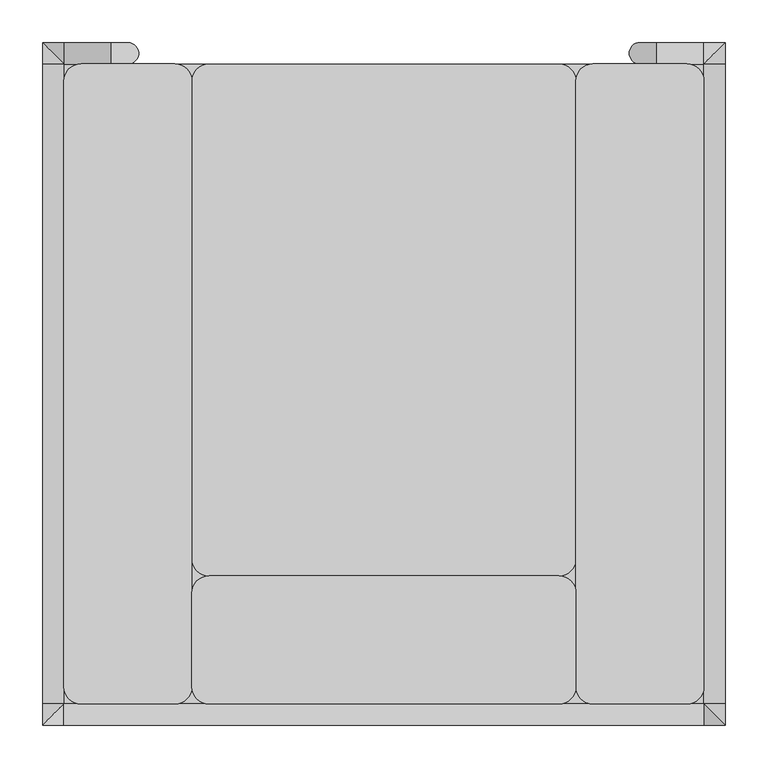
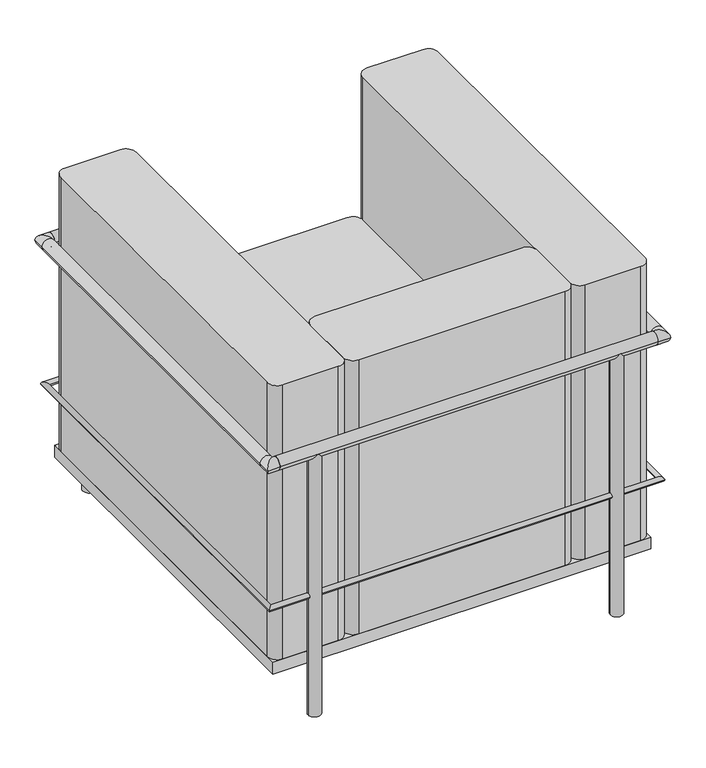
"""IFC4 building model written with IfcOpenShell, lengths in millimetres: furniture geometry, Couch_-_Le_Corbusier_Family_-_1_2_3_seater_9476 : 1 posto."""

from ifc_helpers import new_model, si_unit, point, frame, frame_2d, origin, origin_with_axes, place, context, project, spatial, polyline, circle_curve, ellipse_curve, trimmed, segment, composite_curve, outline, extrude, source, transform, mapped, element, save
from ifc_brep_helpers import plane_surface, cylinder_surface, revolved_surface, advanced_brep


def furniture_a3832d90(model_context):
    return source(origin(), model_context, "Body", "SolidModel", [
        advanced_brep(
        [(-300.0, 557.5, 250.0), (-300.0, 567.5, 250.0), (-392.5, 567.5, 250.0), (-382.5, 557.5, 250.0), (-392.5, -217.5, 250.0), (-382.5, -207.5, 250.0), (392.5, -217.5, 250.0), (382.5, -207.5, 250.0), (392.5, 567.5, 250.0), (382.5, 557.5, 250.0), (300.0, 557.5, 250.0), (300.0, 567.5, 250.0)],
        [
            (0, 1, circle_curve(frame((-300.0, 562.5, 250.0), z_axis=(1.0, 0.0, 0.0), x_axis=(0.0, 1.0, 0.0)), 5.0)),
            (1, 0, circle_curve(frame((-300.0, 562.5, 250.0), z_axis=(1.0, 0.0, 0.0), x_axis=(0.0, 1.0, 0.0)), 5.0)),
            (1, 2),
            (2, 3, ellipse_curve(frame((-387.5, 562.5, 250.0), z_axis=(0.7071067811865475, 0.7071067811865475, 0.0), x_axis=(0.7071067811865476, -0.7071067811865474, 0.0)), 7.0710678, 5.0)),
            (3, 0),
            (3, 2, ellipse_curve(frame((-387.5, 562.5, 250.0), z_axis=(0.7071067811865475, 0.7071067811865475, 0.0), x_axis=(0.7071067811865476, -0.7071067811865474, 0.0)), 7.0710678, 5.0)),
            (2, 4),
            (4, 5, ellipse_curve(frame((-387.5, -212.5, 250.0), z_axis=(-0.7071067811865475, 0.7071067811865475, 0.0), x_axis=(0.7071067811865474, 0.7071067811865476, 0.0)), 7.0710678, 5.0)),
            (5, 3),
            (5, 4, ellipse_curve(frame((-387.5, -212.5, 250.0), z_axis=(-0.7071067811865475, 0.7071067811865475, 0.0), x_axis=(0.7071067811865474, 0.7071067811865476, 0.0)), 7.0710678, 5.0)),
            (4, 6),
            (6, 7, ellipse_curve(frame((387.5, -212.5, 250.0), z_axis=(-0.7071067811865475, -0.7071067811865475, 0.0), x_axis=(-0.7071067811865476, 0.7071067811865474, 0.0)), 7.0710678, 5.0)),
            (7, 5),
            (7, 6, ellipse_curve(frame((387.5, -212.5, 250.0), z_axis=(-0.7071067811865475, -0.7071067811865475, 0.0), x_axis=(-0.7071067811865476, 0.7071067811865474, 0.0)), 7.0710678, 5.0)),
            (6, 8),
            (8, 9, ellipse_curve(frame((387.5, 562.5, 250.0), z_axis=(0.7071067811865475, -0.7071067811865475, 0.0), x_axis=(-0.7071067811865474, -0.7071067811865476, 0.0)), 7.0710678, 5.0)),
            (9, 7),
            (9, 8, ellipse_curve(frame((387.5, 562.5, 250.0), z_axis=(0.7071067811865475, -0.7071067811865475, 0.0), x_axis=(-0.7071067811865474, -0.7071067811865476, 0.0)), 7.0710678, 5.0)),
            (10, 11, circle_curve(frame((300.0, 562.5, 250.0), z_axis=(-1.0, 0.0, 0.0), x_axis=(0.0, 1.0, 0.0)), 5.0)),
            (11, 10, circle_curve(frame((300.0, 562.5, 250.0), z_axis=(-1.0, 0.0, 0.0), x_axis=(0.0, 1.0, 0.0)), 5.0)),
            (8, 11),
            (10, 9),
        ],
        [
            plane_surface(frame((-300.0, 562.5, 250.0), z_axis=(1.0, 0.0, 0.0), x_axis=(0.0, 0.0, 1.0))),
            cylinder_surface(frame((-300.0, 562.5, 250.0), z_axis=(1.0, 0.0, 0.0), x_axis=(0.0, 1.0, 0.0)), 5.0),
            cylinder_surface(frame((-387.5, 562.5, 250.0), z_axis=(0.0, 1.0, 0.0), x_axis=(-1.0, 0.0, 0.0)), 5.0),
            cylinder_surface(frame((-387.5, -212.5, 250.0), z_axis=(-1.0, 0.0, 0.0), x_axis=(0.0, -1.0, 0.0)), 5.0),
            cylinder_surface(frame((387.5, -212.5, 250.0), z_axis=(0.0, -1.0, 0.0), x_axis=(1.0, 0.0, 0.0)), 5.0),
            plane_surface(frame((300.0, 562.5, 250.0), z_axis=(-1.0, 0.0, 0.0), x_axis=(0.0, 0.0, 1.0))),
            cylinder_surface(frame((387.5, 562.5, 250.0), z_axis=(1.0, 0.0, 0.0), x_axis=(0.0, 1.0, 0.0)), 5.0),
        ],
        [
            (0, [[1, 2]]),
            (1, [[3, 4, 5, -2]]),
            (1, [[-5, 6, -3, -1]]),
            (2, [[7, 8, 9, -4]]),
            (2, [[-9, 10, -7, -6]]),
            (3, [[11, 12, 13, -8]]),
            (3, [[-13, 14, -11, -10]]),
            (4, [[15, 16, 17, -12]]),
            (4, [[-17, 18, -15, -14]]),
            (5, [[19, 20]]),
            (6, [[21, -19, 22, -16]]),
            (6, [[-22, -20, -21, -18]]),
        ],
    ),
        extrude(outline(composite_curve([segment(trimmed(circle_curve(frame_2d((300.0, -212.5)), 12.5), [point((312.5, -212.5))], [point((287.5, -212.5))], False, "CARTESIAN"), True, "CONTINUOUS"), segment(trimmed(circle_curve(frame_2d((300.0, -212.5)), 12.5), [point((287.5, -212.5))], [point((312.5, -212.5))], False, "CARTESIAN"), True, "CONTINUOUS")], self_intersect=False)), origin_with_axes(), (0.0, 0.0, 1.0), 550.0),
        extrude(outline(composite_curve([segment(trimmed(circle_curve(frame_2d((-300.0, -212.5)), 12.5), [point((-312.5, -212.5))], [point((-287.5, -212.5))], False, "CARTESIAN"), True, "CONTINUOUS"), segment(trimmed(circle_curve(frame_2d((-300.0, -212.5)), 12.5), [point((-287.5, -212.5))], [point((-312.5, -212.5))], False, "CARTESIAN"), True, "CONTINUOUS")], self_intersect=False)), origin_with_axes(), (0.0, 0.0, 1.0), 550.0),
        extrude(outline(composite_curve([segment(trimmed(circle_curve(frame_2d((-212.5, 550.0)), 12.5), [point((-200.0, 550.0))], [point((-225.0, 550.0))], False, "CARTESIAN"), True, "CONTINUOUS"), segment(trimmed(circle_curve(frame_2d((-212.5, 550.0)), 12.5), [point((-225.0, 550.0))], [point((-200.0, 550.0))], False, "CARTESIAN"), True, "CONTINUOUS")], self_intersect=False)), frame((-375.0, 0.0, 0.0), z_axis=(1.0, 0.0, 0.0), x_axis=(0.0, 1.0, 0.0)), (0.0, 0.0, 1.0), 750.0),
        advanced_brep(
        [(375.0, -200.0, 550.0), (375.0, -225.0, 550.0), (400.0, -225.0, 550.0), (400.0, -200.0, 550.0), (400.0, 550.0, 550.0), (375.0, 550.0, 550.0), (400.0, 575.0, 550.0), (375.0, 575.0, 550.0)],
        [
            (0, 1, circle_curve(frame((375.0, -212.5, 550.0), z_axis=(-1.0, 0.0, 0.0), x_axis=(0.0, -1.0, 0.0)), 12.5)),
            (1, 0, circle_curve(frame((375.0, -212.5, 550.0), z_axis=(-1.0, 0.0, 0.0), x_axis=(0.0, -1.0, 0.0)), 12.5)),
            (1, 2),
            (2, 0, ellipse_curve(frame((387.5, -212.5, 550.0), z_axis=(-0.7071067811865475, -0.7071067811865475, 0.0), x_axis=(-0.7071067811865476, 0.7071067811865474, 0.0)), 17.6776695, 12.5)),
            (0, 2, ellipse_curve(frame((387.5, -212.5, 550.0), z_axis=(-0.7071067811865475, -0.7071067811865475, 0.0), x_axis=(-0.7071067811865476, 0.7071067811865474, 0.0)), 17.6776695, 12.5)),
            (2, 3),
            (3, 0, circle_curve(frame((387.5, -200.0, 550.0), z_axis=(0.0, -1.0, 0.0), x_axis=(1.0, 0.0, 0.0)), 12.5)),
            (0, 3, circle_curve(frame((387.5, -200.0, 550.0), z_axis=(0.0, -1.0, 0.0), x_axis=(1.0, 0.0, 0.0)), 12.5)),
            (3, 4),
            (4, 5, circle_curve(frame((387.5, 550.0, 550.0), z_axis=(0.0, -1.0, 0.0), x_axis=(1.0, 0.0, 0.0)), 12.5)),
            (5, 0),
            (5, 4, circle_curve(frame((387.5, 550.0, 550.0), z_axis=(0.0, -1.0, 0.0), x_axis=(1.0, 0.0, 0.0)), 12.5)),
            (4, 6),
            (6, 5, ellipse_curve(frame((387.5, 562.5, 550.0), z_axis=(0.7071067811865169, -0.7071067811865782, 0.0), x_axis=(-0.7071067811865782, -0.7071067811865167, 0.0)), 17.6776695, 12.5)),
            (5, 6, ellipse_curve(frame((387.5, 562.5, 550.0), z_axis=(0.7071067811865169, -0.7071067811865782, 0.0), x_axis=(-0.7071067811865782, -0.7071067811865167, 0.0)), 17.6776695, 12.5)),
            (5, 7, circle_curve(frame((375.0, 562.5, 550.0), z_axis=(-1.0, 0.0, 0.0), x_axis=(0.0, 1.0, 0.0)), 12.5)),
            (7, 5, circle_curve(frame((375.0, 562.5, 550.0), z_axis=(-1.0, 0.0, 0.0), x_axis=(0.0, 1.0, 0.0)), 12.5)),
            (6, 7),
        ],
        [
            plane_surface(frame((375.0, -212.5, 550.0), z_axis=(-1.0, 0.0, 0.0), x_axis=(0.0, 0.0, 1.0))),
            cylinder_surface(frame((375.0, -212.5, 550.0), z_axis=(-1.0, 0.0, 0.0), x_axis=(0.0, -1.0, 0.0)), 12.5),
            cylinder_surface(frame((387.5, -212.5, 550.0), z_axis=(0.0, -1.0, 0.0), x_axis=(1.0, 0.0, 0.0)), 12.5),
            cylinder_surface(frame((387.5, -200.0, 550.0), z_axis=(0.0, -1.0, 0.0), x_axis=(1.0, 0.0, 0.0)), 12.5),
            cylinder_surface(frame((387.5, 550.0, 550.0), z_axis=(0.0, -1.0, 0.0), x_axis=(1.0, 0.0, 0.0)), 12.5),
            plane_surface(frame((375.0, 562.5, 550.0), z_axis=(-1.0, 0.0, 0.0), x_axis=(0.0, 0.0, 1.0))),
            cylinder_surface(frame((387.5, 562.5, 550.0), z_axis=(1.0, 0.0, 0.0), x_axis=(0.0, 1.0, 0.0)), 12.5),
        ],
        [
            (0, [[1, 2]]),
            (1, [[3, 4, -2]]),
            (1, [[5, -3, -1]]),
            (2, [[6, 7, -4]]),
            (2, [[8, -6, -5]]),
            (3, [[9, 10, 11, -7]]),
            (3, [[-11, 12, -9, -8]]),
            (4, [[13, 14, -10]]),
            (4, [[15, -13, -12]]),
            (5, [[16, 17]]),
            (6, [[18, -16, -14]]),
            (6, [[-17, -18, -15]]),
        ],
    ),
        advanced_brep(
        [(-375.0, -225.0, 550.0), (-375.0, -200.0, 550.0), (-400.0, -225.0, 550.0), (-400.0, -200.0, 550.0), (-375.0, 550.0, 550.0), (-400.0, 550.0, 550.0), (-400.0, 575.0, 550.0), (-375.0, 575.0, 550.0)],
        [
            (0, 1, circle_curve(frame((-375.0, -212.5, 550.0), z_axis=(1.0, 0.0, 0.0), x_axis=(0.0, 1.0, 0.0)), 12.5)),
            (1, 0, circle_curve(frame((-375.0, -212.5, 550.0), z_axis=(1.0, 0.0, 0.0), x_axis=(0.0, 1.0, 0.0)), 12.5)),
            (1, 2, ellipse_curve(frame((-387.5, -212.5, 550.0), z_axis=(0.7071067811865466, -0.7071067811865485, 0.0), x_axis=(0.7071067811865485, 0.7071067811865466, 0.0)), 17.6776695, 12.5)),
            (2, 0),
            (2, 1, ellipse_curve(frame((-387.5, -212.5, 550.0), z_axis=(0.7071067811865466, -0.7071067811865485, 0.0), x_axis=(0.7071067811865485, 0.7071067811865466, 0.0)), 17.6776695, 12.5)),
            (1, 3, circle_curve(frame((-387.5, -200.0, 550.0), z_axis=(0.0, -1.0, 0.0), x_axis=(1.0, 0.0, 0.0)), 12.5)),
            (3, 2),
            (3, 1, circle_curve(frame((-387.5, -200.0, 550.0), z_axis=(0.0, -1.0, 0.0), x_axis=(1.0, 0.0, 0.0)), 12.5)),
            (1, 4),
            (4, 5, circle_curve(frame((-387.5, 550.0, 550.0), z_axis=(0.0, -1.0, 0.0), x_axis=(1.0, 0.0, 0.0)), 12.5)),
            (5, 3),
            (5, 4, circle_curve(frame((-387.5, 550.0, 550.0), z_axis=(0.0, -1.0, 0.0), x_axis=(1.0, 0.0, 0.0)), 12.5)),
            (4, 6, ellipse_curve(frame((-387.5, 562.5, 550.0), z_axis=(-0.7071067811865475, -0.7071067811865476, 0.0), x_axis=(0.7071067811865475, -0.7071067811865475, 0.0)), 17.6776695, 12.5)),
            (6, 5),
            (6, 4, ellipse_curve(frame((-387.5, 562.5, 550.0), z_axis=(-0.7071067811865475, -0.7071067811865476, 0.0), x_axis=(0.7071067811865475, -0.7071067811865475, 0.0)), 17.6776695, 12.5)),
            (7, 4, circle_curve(frame((-375.0, 562.5, 550.0), z_axis=(1.0, 0.0, 0.0), x_axis=(0.0, -1.0, 0.0)), 12.5)),
            (4, 7, circle_curve(frame((-375.0, 562.5, 550.0), z_axis=(1.0, 0.0, 0.0), x_axis=(0.0, -1.0, 0.0)), 12.5)),
            (7, 6),
        ],
        [
            plane_surface(frame((-375.0, -212.5, 550.0), z_axis=(1.0, 0.0, 0.0), x_axis=(0.0, 0.0, 1.0))),
            cylinder_surface(frame((-375.0, -212.5, 550.0), z_axis=(1.0, 0.0, 0.0), x_axis=(0.0, 1.0, 0.0)), 12.5),
            cylinder_surface(frame((-387.5, -212.5, 550.0), z_axis=(0.0, -1.0, 0.0), x_axis=(1.0, 0.0, 0.0)), 12.5),
            cylinder_surface(frame((-387.5, -200.0, 550.0), z_axis=(0.0, -1.0, 0.0), x_axis=(1.0, 0.0, 0.0)), 12.5),
            cylinder_surface(frame((-387.5, 550.0, 550.0), z_axis=(0.0, -1.0, 0.0), x_axis=(1.0, 0.0, 0.0)), 12.5),
            plane_surface(frame((-375.0, 562.5, 550.0), z_axis=(1.0, 0.0, 0.0), x_axis=(0.0, 0.0, 1.0))),
            cylinder_surface(frame((-387.5, 562.5, 550.0), z_axis=(-1.0, 0.0, 0.0), x_axis=(0.0, -1.0, 0.0)), 12.5),
        ],
        [
            (0, [[1, 2]]),
            (1, [[3, 4, -2]]),
            (1, [[-4, 5, -1]]),
            (2, [[6, 7, -3]]),
            (2, [[-7, 8, -5]]),
            (3, [[9, 10, 11, -6]]),
            (3, [[-11, 12, -9, -8]]),
            (4, [[13, 14, -10]]),
            (4, [[-14, 15, -12]]),
            (5, [[16, 17]]),
            (6, [[-16, 18, -13]]),
            (6, [[-18, -17, -15]]),
        ],
    ),
        advanced_brep(
        [(375.0, 550.0, 550.0), (375.0, 575.0, 550.0), (320.0, 575.0, 550.0), (320.0, 550.0, 550.0), (300.0, 575.0, 530.0), (300.0, 550.0, 530.0), (300.0, 550.0, 0.0), (300.0, 575.0, 0.0)],
        [
            (0, 1, circle_curve(frame((375.0, 562.5, 550.0), z_axis=(1.0, 0.0, 0.0), x_axis=(0.0, 1.0, 0.0)), 12.5)),
            (1, 0, circle_curve(frame((375.0, 562.5, 550.0), z_axis=(1.0, 0.0, 0.0), x_axis=(0.0, 1.0, 0.0)), 12.5)),
            (1, 2),
            (2, 3, circle_curve(frame((320.0, 562.5, 550.0), z_axis=(1.0, 0.0, 0.0), x_axis=(0.0, 1.0, 0.0)), 12.5)),
            (3, 0),
            (3, 2, circle_curve(frame((320.0, 562.5, 550.0), z_axis=(1.0, 0.0, 0.0), x_axis=(0.0, 1.0, 0.0)), 12.5)),
            (4, 5, circle_curve(frame((300.0, 562.5, 530.0), z_axis=(0.0, 0.0, 1.0), x_axis=(0.0, 1.0, 0.0)), 12.5)),
            (5, 3, circle_curve(frame((320.0, 550.0, 530.0), z_axis=(0.0, 1.0, 0.0), x_axis=(0.0, 0.0, 1.0)), 20.0)),
            (2, 4, circle_curve(frame((320.0, 575.0, 530.0), z_axis=(0.0, -1.0, 0.0), x_axis=(0.0, 0.0, 1.0)), 20.0)),
            (5, 4, circle_curve(frame((300.0, 562.5, 530.0), z_axis=(0.0, 0.0, 1.0), x_axis=(0.0, 1.0, 0.0)), 12.5)),
            (6, 7, circle_curve(frame((300.0, 562.5, 0.0), z_axis=(0.0, 0.0, -1.0), x_axis=(0.0, 1.0, 0.0)), 12.5)),
            (7, 6, circle_curve(frame((300.0, 562.5, 0.0), z_axis=(0.0, 0.0, -1.0), x_axis=(0.0, 1.0, 0.0)), 12.5)),
            (4, 7),
            (6, 5),
        ],
        [
            plane_surface(frame((375.0, 562.5, 550.0), z_axis=(1.0, 0.0, 0.0), x_axis=(0.0, 1.0, 0.0))),
            cylinder_surface(frame((375.0, 562.5, 550.0), z_axis=(1.0, 0.0, 0.0), x_axis=(0.0, 1.0, 0.0)), 12.5),
            revolved_surface(trimmed(ellipse_curve(frame((320.0, 562.5, 550.0), z_axis=(-1.0, 0.0, 0.0), x_axis=(0.0, 1.0, 0.0)), 12.5, 12.5), [point((320.0, 550.0, 550.0))], [point((320.0, 575.0, 550.0))], True, "CARTESIAN"), (320.0, 562.5, 530.0), (0.0, 1.0, 0.0)),
            revolved_surface(trimmed(ellipse_curve(frame((320.0, 562.5, 550.0), z_axis=(-1.0, 0.0, 0.0), x_axis=(0.0, 1.0, 0.0)), 12.5, 12.5), [point((320.0, 575.0, 550.0))], [point((320.0, 550.0, 550.0))], True, "CARTESIAN"), (320.0, 562.5, 530.0), (0.0, 1.0, 0.0)),
            plane_surface(frame((300.0, 562.5, 0.0), z_axis=(0.0, 0.0, -1.0), x_axis=(0.0, 1.0, 0.0))),
            cylinder_surface(frame((300.0, 562.5, 530.0), z_axis=(0.0, 0.0, 1.0), x_axis=(0.0, 1.0, 0.0)), 12.5),
        ],
        [
            (0, [[1, 2]]),
            (1, [[3, 4, 5, -2]]),
            (1, [[-5, 6, -3, -1]]),
            (2, [[7, 8, -4, 9]]),
            (3, [[10, -9, -6, -8]]),
            (4, [[11, 12]]),
            (5, [[13, -11, 14, -7]]),
            (5, [[-14, -12, -13, -10]]),
        ],
    ),
        advanced_brep(
        [(-375.0, 550.0, 550.0), (-375.0, 575.0, 550.0), (-320.0, 575.0, 550.0), (-320.0, 550.0, 550.0), (-300.0, 575.0, 530.0), (-300.0, 550.0, 530.0), (-300.0, 550.0, 0.0), (-300.0, 575.0, 0.0)],
        [
            (0, 1, circle_curve(frame((-375.0, 562.5, 550.0), z_axis=(-1.0, 0.0, 0.0), x_axis=(0.0, 1.0, 0.0)), 12.5)),
            (1, 0, circle_curve(frame((-375.0, 562.5, 550.0), z_axis=(-1.0, 0.0, 0.0), x_axis=(0.0, 1.0, 0.0)), 12.5)),
            (1, 2),
            (2, 3, circle_curve(frame((-320.0, 562.5, 550.0), z_axis=(-1.0, 0.0, 0.0), x_axis=(0.0, 1.0, 0.0)), 12.5)),
            (3, 0),
            (3, 2, circle_curve(frame((-320.0, 562.5, 550.0), z_axis=(-1.0, 0.0, 0.0), x_axis=(0.0, 1.0, 0.0)), 12.5)),
            (4, 5, circle_curve(frame((-300.0, 562.5, 530.0), z_axis=(0.0, 0.0, 1.0), x_axis=(0.0, 1.0, 0.0)), 12.5)),
            (5, 3, circle_curve(frame((-320.0, 550.0, 530.0), z_axis=(0.0, -1.0, 0.0), x_axis=(0.0, 0.0, 1.0)), 20.0)),
            (2, 4, circle_curve(frame((-320.0, 575.0, 530.0), z_axis=(0.0, 1.0, 0.0), x_axis=(0.0, 0.0, 1.0)), 20.0)),
            (5, 4, circle_curve(frame((-300.0, 562.5, 530.0), z_axis=(0.0, 0.0, 1.0), x_axis=(0.0, 1.0, 0.0)), 12.5)),
            (6, 7, circle_curve(frame((-300.0, 562.5, 0.0), z_axis=(0.0, 0.0, -1.0), x_axis=(0.0, 1.0, 0.0)), 12.5)),
            (7, 6, circle_curve(frame((-300.0, 562.5, 0.0), z_axis=(0.0, 0.0, -1.0), x_axis=(0.0, 1.0, 0.0)), 12.5)),
            (4, 7),
            (6, 5),
        ],
        [
            plane_surface(frame((-375.0, 562.5, 550.0), z_axis=(-1.0, 0.0, 0.0), x_axis=(0.0, 1.0, 0.0))),
            cylinder_surface(frame((-375.0, 562.5, 550.0), z_axis=(-1.0, 0.0, 0.0), x_axis=(0.0, 1.0, 0.0)), 12.5),
            revolved_surface(trimmed(ellipse_curve(frame((-320.0, 562.5, 550.0), z_axis=(1.0, 0.0, 0.0), x_axis=(0.0, 1.0, 0.0)), 12.5, 12.5), [point((-320.0, 550.0, 550.0))], [point((-320.0, 575.0, 550.0))], True, "CARTESIAN"), (-320.0, 562.5, 530.0), (0.0, -1.0, 0.0)),
            revolved_surface(trimmed(ellipse_curve(frame((-320.0, 562.5, 550.0), z_axis=(1.0, 0.0, 0.0), x_axis=(0.0, 1.0, 0.0)), 12.5, 12.5), [point((-320.0, 575.0, 550.0))], [point((-320.0, 550.0, 550.0))], True, "CARTESIAN"), (-320.0, 562.5, 530.0), (0.0, -1.0, 0.0)),
            plane_surface(frame((-300.0, 562.5, 0.0), z_axis=(0.0, 0.0, -1.0), x_axis=(0.0, 1.0, 0.0))),
            cylinder_surface(frame((-300.0, 562.5, 530.0), z_axis=(0.0, 0.0, 1.0), x_axis=(0.0, 1.0, 0.0)), 12.5),
        ],
        [
            (0, [[1, 2]]),
            (1, [[3, 4, 5, -2]]),
            (1, [[-5, 6, -3, -1]]),
            (2, [[7, 8, -4, 9]]),
            (3, [[10, -9, -6, -8]]),
            (4, [[11, 12]]),
            (5, [[13, -11, 14, -7]]),
            (5, [[-14, -12, -13, -10]]),
        ],
    ),
        extrude(outline(composite_curve([segment(trimmed(circle_curve(frame_2d((-205.0, 530.0)), 20.0), [point((-225.0, 530.0))], [point((-205.0, 550.0))], False, "CARTESIAN"), True, "CONTINUOUS"), segment(polyline([(-205.0, 550.0), (205.0, 550.0)]), True, "CONTINUOUS"), segment(trimmed(circle_curve(frame_2d((205.0, 530.0)), 20.0), [point((205.0, 550.0))], [point((225.0, 530.0))], False, "CARTESIAN"), True, "CONTINUOUS"), segment(polyline([(225.0, 530.0), (225.0, -30.0)]), True, "CONTINUOUS"), segment(trimmed(circle_curve(frame_2d((205.0, -30.0)), 20.0), [point((225.0, -30.0))], [point((205.0, -50.0))], False, "CARTESIAN"), True, "CONTINUOUS"), segment(polyline([(205.0, -50.0), (-205.0, -50.0)]), True, "CONTINUOUS"), segment(trimmed(circle_curve(frame_2d((-205.0, -30.0)), 20.0), [point((-205.0, -50.0))], [point((-225.0, -30.0))], False, "CARTESIAN"), True, "CONTINUOUS"), segment(polyline([(-225.0, -30.0), (-225.0, 530.0)]), True, "CONTINUOUS")], self_intersect=False)), frame((0.0, 0.0, 250.0), z_axis=(0.0, 0.0, 1.0), x_axis=(1.0, 0.0, 0.0)), (0.0, 0.0, 1.0), 150.0),
        extrude(outline(composite_curve([segment(trimmed(circle_curve(frame_2d((-205.0, 530.0)), 20.0), [point((-225.0, 530.0))], [point((-205.0, 550.0))], False, "CARTESIAN"), True, "CONTINUOUS"), segment(polyline([(-205.0, 550.0), (205.0, 550.0)]), True, "CONTINUOUS"), segment(trimmed(circle_curve(frame_2d((205.0, 530.0)), 20.0), [point((205.0, 550.0))], [point((225.0, 530.0))], False, "CARTESIAN"), True, "CONTINUOUS"), segment(polyline([(225.0, 530.0), (225.0, -30.0)]), True, "CONTINUOUS"), segment(trimmed(circle_curve(frame_2d((205.0, -30.0)), 20.0), [point((225.0, -30.0))], [point((205.0, -50.0))], False, "CARTESIAN"), True, "CONTINUOUS"), segment(polyline([(205.0, -50.0), (-205.0, -50.0)]), True, "CONTINUOUS"), segment(trimmed(circle_curve(frame_2d((-205.0, -30.0)), 20.0), [point((-205.0, -50.0))], [point((-225.0, -30.0))], False, "CARTESIAN"), True, "CONTINUOUS"), segment(polyline([(-225.0, -30.0), (-225.0, 530.0)]), True, "CONTINUOUS")], self_intersect=False)), frame((0.0, 0.0, 125.0), z_axis=(0.0, 0.0, 1.0), x_axis=(1.0, 0.0, 0.0)), (0.0, 0.0, 1.0), 125.0),
        extrude(outline(composite_curve([segment(trimmed(circle_curve(frame_2d((-205.0, -180.0)), 20.0), [point((-205.0, -200.0))], [point((-225.0, -180.0))], False, "CARTESIAN"), True, "CONTINUOUS"), segment(polyline([(-225.0, -180.0), (-225.0, -70.0)]), True, "CONTINUOUS"), segment(trimmed(circle_curve(frame_2d((-205.0, -70.0)), 20.0), [point((-225.0, -70.0))], [point((-205.0, -50.0))], False, "CARTESIAN"), True, "CONTINUOUS"), segment(polyline([(-205.0, -50.0), (205.0, -50.0)]), True, "CONTINUOUS"), segment(trimmed(circle_curve(frame_2d((205.0, -70.0)), 20.0), [point((205.0, -50.0))], [point((225.0, -70.0))], False, "CARTESIAN"), True, "CONTINUOUS"), segment(polyline([(225.0, -70.0), (225.0, -180.0)]), True, "CONTINUOUS"), segment(trimmed(circle_curve(frame_2d((205.0, -180.0)), 20.0), [point((225.0, -180.0))], [point((205.0, -200.0))], False, "CARTESIAN"), True, "CONTINUOUS"), segment(polyline([(205.0, -200.0), (-205.0, -200.0)]), True, "CONTINUOUS")], self_intersect=False)), frame((0.0, 0.0, 125.0), z_axis=(0.0, 0.0, 1.0), x_axis=(1.0, 0.0, 0.0)), (0.0, 0.0, 1.0), 575.0),
        extrude(outline(composite_curve([segment(polyline([(375.0, 530.0), (375.0, -180.0)]), True, "CONTINUOUS"), segment(trimmed(circle_curve(frame_2d((355.0, -180.0)), 20.0), [point((375.0, -180.0))], [point((355.0, -200.0))], False, "CARTESIAN"), True, "CONTINUOUS"), segment(polyline([(355.0, -200.0), (245.0, -200.0)]), True, "CONTINUOUS"), segment(trimmed(circle_curve(frame_2d((245.0, -180.0)), 20.0), [point((245.0, -200.0))], [point((225.0, -180.0))], False, "CARTESIAN"), True, "CONTINUOUS"), segment(polyline([(225.0, -180.0), (225.0, 530.0)]), True, "CONTINUOUS"), segment(trimmed(circle_curve(frame_2d((245.0, 530.0)), 20.0), [point((225.0, 530.0))], [point((245.0, 550.0))], False, "CARTESIAN"), True, "CONTINUOUS"), segment(polyline([(245.0, 550.0), (355.0, 550.0)]), True, "CONTINUOUS"), segment(trimmed(circle_curve(frame_2d((355.0, 530.0)), 20.0), [point((355.0, 550.0))], [point((375.0, 530.0))], False, "CARTESIAN"), True, "CONTINUOUS")], self_intersect=False)), frame((0.0, 0.0, 125.0), z_axis=(0.0, 0.0, 1.0), x_axis=(1.0, 0.0, 0.0)), (0.0, 0.0, 1.0), 575.0),
        extrude(outline(composite_curve([segment(trimmed(circle_curve(frame_2d((-355.0, 530.0)), 20.0), [point((-375.0, 530.0))], [point((-355.0, 550.0))], False, "CARTESIAN"), True, "CONTINUOUS"), segment(polyline([(-355.0, 550.0), (-245.0, 550.0)]), True, "CONTINUOUS"), segment(trimmed(circle_curve(frame_2d((-245.0, 530.0)), 20.0), [point((-245.0, 550.0))], [point((-225.0, 530.0))], False, "CARTESIAN"), True, "CONTINUOUS"), segment(polyline([(-225.0, 530.0), (-225.0, -180.0)]), True, "CONTINUOUS"), segment(trimmed(circle_curve(frame_2d((-245.0, -180.0)), 20.0), [point((-225.0, -180.0))], [point((-245.0, -200.0))], False, "CARTESIAN"), True, "CONTINUOUS"), segment(polyline([(-245.0, -200.0), (-355.0, -200.0)]), True, "CONTINUOUS"), segment(trimmed(circle_curve(frame_2d((-355.0, -180.0)), 20.0), [point((-355.0, -200.0))], [point((-375.0, -180.0))], False, "CARTESIAN"), True, "CONTINUOUS"), segment(polyline([(-375.0, -180.0), (-375.0, 530.0)]), True, "CONTINUOUS")], self_intersect=False)), frame((0.0, 0.0, 125.0), z_axis=(0.0, 0.0, 1.0), x_axis=(1.0, 0.0, 0.0)), (0.0, 0.0, 1.0), 575.0),
        extrude(outline(polyline([(-375.0, -200.0), (-375.0, 550.0), (375.0, 550.0), (375.0, -200.0), (-375.0, -200.0)])), frame((0.0, 0.0, 100.0), z_axis=(0.0, 0.0, 1.0), x_axis=(1.0, 0.0, 0.0)), (0.0, 0.0, 1.0), 25.0),
    ])


if __name__ == "__main__":
    model = new_model("IFC4")
    model_context = context("Model", 3, world=origin())
    ifc_project = project(units=[si_unit("LENGTHUNIT", "METRE", prefix="MILLI")], contexts=[model_context])
    site = spatial("IfcSite", under=ifc_project)
    building = spatial("IfcBuilding", under=site)
    placement = place(None, origin())
    furniture_shape = furniture_a3832d90(model_context)
    element("IfcFurniture", 1, ObjectType="Couch_-_Le_Corbusier_Family_-_1_2_3_seater_9476 : 1 posto", at=placement, inside=building, context=model_context, shape_type="MappedRepresentation", body=[
        mapped(furniture_shape, transform((0.0, 0.0, 0.0), x_axis=(1.0, 0.0, 0.0), y_axis=(0.0, 1.0, 0.0), z_axis=(0.0, 0.0, 1.0))),
    ])
    save(model, "model.ifc")
